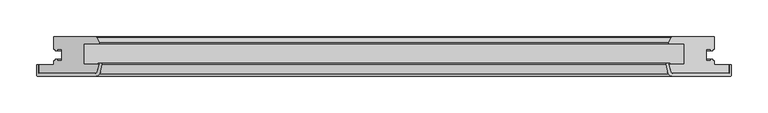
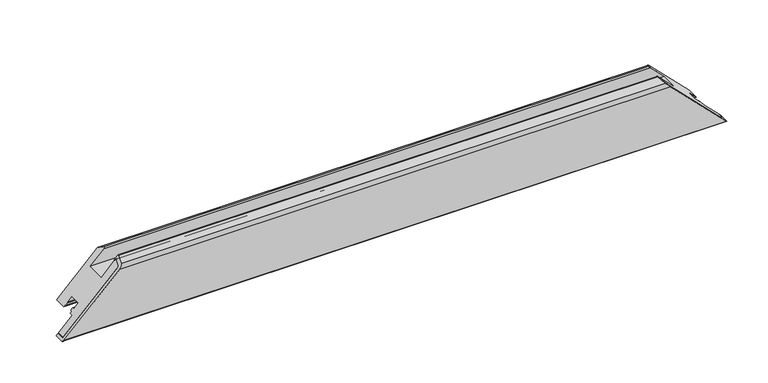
"""IFC4 building model written with IfcOpenShell, lengths in millimetres: proxy geometry, Weiku - Montante - Folha 02.2.01.018 : Weiku - Montante - Folha 02.2.01.018."""

from ifc_helpers import new_model, si_unit, frame, origin, place, context, project, spatial, polyline, ellipse_curve, source, transform, mapped, element, save
from ifc_brep_helpers import plane_surface, cylinder_surface, revolved_surface, advanced_brep


def generic_models_70f85dd0(model_context):
    return source(origin(), model_context, "Body", "AdvancedBrep", [
        advanced_brep(
        [(470.5, -50.0, 0.0), (-470.5, -50.0, 0.0), (-393.4997332, -50.0, 77.0002668), (393.4997332, -50.0, 77.0002668), (-390.6019557, -47.7764571, 79.8980443), (390.6019557, -47.7764571, 79.8980443), (-388.0170371, -38.1294095, 82.4829629), (388.0170371, -38.1294095, 82.4829629), (-388.5, -37.5, 82.0), (388.5, -37.5, 82.0), (-389.3560102, -37.5, 81.1439898), (389.3560102, -37.5, 81.1439898), (-389.3560102, -36.5, 81.1439898), (389.3560102, -36.5, 81.1439898), (-384.7425588, -36.5, 85.7574412), (384.7425588, -36.5, 85.7574412), (-383.7766329, -37.758819, 86.7233671), (383.7766329, -37.758819, 86.7233671), (-387.1354501, -50.2940952, 83.3645499), (387.1354501, -50.2940952, 83.3645499), (-391.9650792, -54.0, 78.5349208), (391.9650792, -54.0, 78.5349208), (-471.5, -54.0, -1.0), (471.5, -54.0, -1.0), (-473.5, -52.0, -3.0), (473.5, -52.0, -3.0), (-473.5, -38.5, -3.0), (473.5, -38.5, -3.0), (-470.5, -38.5, 0.0), (470.5, -38.5, 0.0)],
        [
            (0, 1),
            (1, 2),
            (2, 3),
            (3, 0),
            (2, 4, ellipse_curve(frame((-393.4997332, -47.0, 77.0002668), z_axis=(-0.7071067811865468, 0.0, 0.7071067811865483), x_axis=(0.7071067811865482, 0.0, 0.7071067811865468)), 4.2426407, 3.0)),
            (4, 5),
            (5, 3, ellipse_curve(frame((393.4997332, -47.0, 77.0002668), z_axis=(0.7071067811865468, 0.0, 0.7071067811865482), x_axis=(0.7071067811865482, 0.0, -0.7071067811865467)), 4.2426407, 3.0)),
            (4, 6),
            (6, 7),
            (7, 5),
            (6, 8, ellipse_curve(frame((-388.5, -38.0, 82.0), z_axis=(-0.7071067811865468, 0.0, 0.7071067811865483), x_axis=(0.7071067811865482, 0.0, 0.7071067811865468)), 0.7071068, 0.5)),
            (8, 9),
            (9, 7, ellipse_curve(frame((388.5, -38.0, 82.0), z_axis=(0.7071067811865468, 0.0, 0.7071067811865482), x_axis=(0.7071067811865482, 0.0, -0.7071067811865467)), 0.7071068, 0.5)),
            (8, 10),
            (10, 11),
            (11, 9),
            (10, 12, ellipse_curve(frame((-389.3560102, -37.0, 81.1439898), z_axis=(0.7071067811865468, 0.0, -0.7071067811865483), x_axis=(-0.7071067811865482, 0.0, -0.7071067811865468)), 0.7071068, 0.5)),
            (12, 13),
            (13, 11, ellipse_curve(frame((389.3560102, -37.0, 81.1439898), z_axis=(-0.7071067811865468, 0.0, -0.7071067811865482), x_axis=(-0.7071067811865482, 0.0, 0.7071067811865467)), 0.7071068, 0.5)),
            (12, 14),
            (14, 15),
            (15, 13),
            (14, 16, ellipse_curve(frame((-384.7425588, -37.5, 85.7574412), z_axis=(0.7071067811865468, 0.0, -0.7071067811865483), x_axis=(-0.7071067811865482, 0.0, -0.7071067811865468)), 1.4142136, 1.0)),
            (16, 17),
            (17, 15, ellipse_curve(frame((384.7425588, -37.5, 85.7574412), z_axis=(-0.7071067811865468, 0.0, -0.7071067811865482), x_axis=(-0.7071067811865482, 0.0, 0.7071067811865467)), 1.4142136, 1.0)),
            (16, 18),
            (18, 19),
            (19, 17),
            (18, 20, ellipse_curve(frame((-391.9650792, -49.0, 78.5349208), z_axis=(0.7071067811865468, 0.0, -0.7071067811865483), x_axis=(-0.7071067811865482, 0.0, -0.7071067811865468)), 7.0710678, 5.0)),
            (20, 21),
            (21, 19, ellipse_curve(frame((391.9650792, -49.0, 78.5349208), z_axis=(-0.7071067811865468, 0.0, -0.7071067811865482), x_axis=(-0.7071067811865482, 0.0, 0.7071067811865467)), 7.0710678, 5.0)),
            (20, 22),
            (22, 23),
            (23, 21),
            (22, 24, ellipse_curve(frame((-471.5, -52.0, -1.0), z_axis=(0.7071067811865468, 0.0, -0.7071067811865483), x_axis=(-0.7071067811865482, 0.0, -0.7071067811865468)), 2.8284271, 2.0)),
            (24, 25),
            (25, 23, ellipse_curve(frame((471.5, -52.0, -1.0), z_axis=(-0.7071067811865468, 0.0, -0.7071067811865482), x_axis=(-0.7071067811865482, 0.0, 0.7071067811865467)), 2.8284271, 2.0)),
            (24, 26),
            (26, 27),
            (27, 25),
            (26, 28),
            (28, 29),
            (29, 27),
            (28, 1),
            (0, 29),
        ],
        [
            plane_surface(frame((-490.5, -50.0, 0.0), z_axis=(0.0, 1.0, 0.0), x_axis=(1.0, 0.0, 0.0))),
            revolved_surface(polyline([(396.49973320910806, -50.0, 77.0002668), (-396.49973320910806, -50.0, 77.0002668)]), (-490.5, -47.0, 77.0002668), (1.0, 0.0, 0.0)),
            plane_surface(frame((-490.5, -47.7764571, 79.8980443), z_axis=(0.0, 0.2588190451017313, -0.9659258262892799), x_axis=(1.0, 0.0, 0.0))),
            revolved_surface(polyline([(389.00000001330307, -38.5, 82.0), (-389.0000000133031, -38.5, 82.0)]), (-490.5, -38.0, 82.0), (1.0, 0.0, 0.0)),
            plane_surface(frame((-490.5, -37.5, 82.0), z_axis=(0.0, -1.0, 0.0), x_axis=(1.0, 0.0, 0.0))),
            cylinder_surface(frame((-490.5, -37.0, 81.1439898), z_axis=(-1.0, 0.0, 0.0), x_axis=(0.0, -1.0, 0.0)), 0.5),
            plane_surface(frame((-490.5, -36.5, 81.1439898), z_axis=(0.0, 1.0, 0.0), x_axis=(1.0, 0.0, 0.0))),
            cylinder_surface(frame((-490.5, -37.5, 85.7574412), z_axis=(-1.0, 0.0, 0.0), x_axis=(0.0, -1.0, 0.0)), 1.0),
            plane_surface(frame((-490.5, -37.758819, 86.7233671), z_axis=(0.0, -0.25881904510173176, 0.9659258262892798), x_axis=(1.0, 0.0, 0.0))),
            cylinder_surface(frame((-490.5, -49.0, 78.5349208), z_axis=(-1.0, 0.0, 0.0), x_axis=(0.0, -1.0, 0.0)), 5.0),
            plane_surface(frame((-490.5, -54.0, 78.5349208), z_axis=(0.0, -1.0, 0.0), x_axis=(1.0, 0.0, 0.0))),
            cylinder_surface(frame((-490.5, -52.0, -1.0), z_axis=(-1.0, 0.0, 0.0), x_axis=(0.0, -1.0, 0.0)), 2.0),
            plane_surface(frame((-490.5, -52.0, -3.0), z_axis=(0.0, 0.0, -1.0), x_axis=(1.0, 0.0, 0.0))),
            plane_surface(frame((-490.5, -38.5, -3.0), z_axis=(0.0, 1.0, 0.0), x_axis=(1.0, 0.0, 0.0))),
            plane_surface(frame((-490.5, -38.5, 0.0), z_axis=(0.0, 0.0, 1.0), x_axis=(1.0, 0.0, 0.0))),
            plane_surface(frame((380.5, 0.0, 90.0), z_axis=(0.7071067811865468, 0.0, 0.7071067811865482), x_axis=(0.0, -1.0, 0.0))),
            plane_surface(frame((-498.7842712, 0.0, -28.2842712), z_axis=(-0.7071067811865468, 0.0, 0.7071067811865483), x_axis=(0.0, -1.0, 0.0))),
        ],
        [
            (0, [[1, 2, 3, 4]]),
            (1, [[-3, 5, 6, 7]]),
            (2, [[-6, 8, 9, 10]]),
            (3, [[-9, 11, 12, 13]]),
            (4, [[-12, 14, 15, 16]]),
            (5, [[-15, 17, 18, 19]]),
            (6, [[-18, 20, 21, 22]]),
            (7, [[-21, 23, 24, 25]]),
            (8, [[-24, 26, 27, 28]]),
            (9, [[-27, 29, 30, 31]]),
            (10, [[-30, 32, 33, 34]]),
            (11, [[-33, 35, 36, 37]]),
            (12, [[-36, 38, 39, 40]]),
            (13, [[-39, 41, 42, 43]]),
            (14, [[-42, 44, -1, 45]]),
            (15, [[-7, -10, -13, -16, -19, -22, -25, -28, -31, -34, -37, -40, -43, -45, -4]]),
            (16, [[-44, -41, -38, -35, -32, -29, -26, -23, -20, -17, -14, -11, -8, -5, -2]]),
        ],
    ),
        advanced_brep(
        [(470.5, -50.0, 0.0), (393.4997332, -50.0, 77.0002668), (-393.4997332, -50.0, 77.0002668), (-470.5, -50.0, 0.0), (-470.5, -38.5, 0.0), (470.5, -38.5, 0.0), (-392.4872264, 0.0, 78.0127736), (392.4872264, 0.0, 78.0127736), (450.5, 0.0, 20.0), (-450.5, 0.0, 20.0), (-390.6019557, -47.7764571, 79.8980443), (-388.0170371, -38.1294095, 82.4829629), (-388.5, -37.5, 82.0), (-409.0, -37.5, 61.5), (-409.0, -9.5, 61.5), (-389.2134285, -9.5, 81.2865715), (-388.0512796, -7.617411, 82.4487204), (-391.5932657, -0.5518546, 78.9067343), (-450.5, -16.9, 20.0), (-448.3, -16.9, 22.2), (-448.3, -18.9, 22.2), (-445.5, -18.9, 25.0), (-445.5, -16.9, 25.0), (-439.0, -16.9, 31.5), (-439.0, -33.1, 31.5), (-445.5, -33.1, 25.0), (-445.5, -31.1, 25.0), (-448.3, -31.1, 22.2), (-448.3, -33.1, 22.2), (-450.5, -33.1, 20.0), (-450.5, -38.5, 20.0), (450.5, -38.5, 20.0), (450.5, -33.1, 20.0), (448.3, -33.1, 22.2), (448.3, -31.1, 22.2), (445.5, -31.1, 25.0), (445.5, -33.1, 25.0), (439.0, -33.1, 31.5), (439.0, -16.9, 31.5), (445.5, -16.9, 25.0), (445.5, -18.9, 25.0), (448.3, -18.9, 22.2), (448.3, -16.9, 22.2), (450.5, -16.9, 20.0), (391.5932657, -0.5518546, 78.9067343), (388.0512796, -7.617411, 82.4487204), (389.2134285, -9.5, 81.2865715), (409.0, -9.5, 61.5), (409.0, -37.5, 61.5), (388.5, -37.5, 82.0), (388.0170371, -38.1294095, 82.4829629), (390.6019557, -47.7764571, 79.8980443)],
        [
            (0, 1),
            (1, 2),
            (2, 3),
            (3, 0),
            (3, 4),
            (4, 5),
            (5, 0),
            (6, 7),
            (7, 8),
            (8, 9),
            (9, 6),
            (2, 10, ellipse_curve(frame((-393.4997332, -47.0, 77.0002668), z_axis=(-0.7071067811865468, 0.0, 0.7071067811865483), x_axis=(-0.7071067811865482, 0.0, -0.7071067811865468)), 4.2426407, 3.0)),
            (10, 11),
            (11, 12, ellipse_curve(frame((-388.5, -38.0, 82.0), z_axis=(-0.7071067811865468, 0.0, 0.7071067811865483), x_axis=(-0.7071067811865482, 0.0, -0.7071067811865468)), 0.7071068, 0.5)),
            (12, 13),
            (13, 14),
            (14, 15),
            (15, 16, ellipse_curve(frame((-389.2134285, -8.2, 81.2865715), z_axis=(-0.7071067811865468, 0.0, 0.7071067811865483), x_axis=(-0.7071067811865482, 0.0, -0.7071067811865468)), 1.8384776, 1.3)),
            (16, 17),
            (17, 6, ellipse_curve(frame((-392.4872264, -1.0, 78.0127736), z_axis=(-0.7071067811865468, 0.0, 0.7071067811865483), x_axis=(-0.7071067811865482, 0.0, -0.7071067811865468)), 1.4142136, 1.0)),
            (9, 18),
            (18, 19),
            (19, 20),
            (20, 21),
            (21, 22),
            (22, 23),
            (23, 24),
            (24, 25),
            (25, 26),
            (26, 27),
            (27, 28),
            (28, 29),
            (29, 30),
            (30, 4),
            (5, 31),
            (31, 32),
            (32, 33),
            (33, 34),
            (34, 35),
            (35, 36),
            (36, 37),
            (37, 38),
            (38, 39),
            (39, 40),
            (40, 41),
            (41, 42),
            (42, 43),
            (43, 8),
            (7, 44, ellipse_curve(frame((392.4872264, -1.0, 78.0127736), z_axis=(0.7071067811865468, 0.0, 0.7071067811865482), x_axis=(-0.7071067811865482, 0.0, 0.7071067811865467)), 1.4142136, 1.0)),
            (44, 45),
            (45, 46, ellipse_curve(frame((389.2134285, -8.2, 81.2865715), z_axis=(0.7071067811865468, 0.0, 0.7071067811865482), x_axis=(-0.7071067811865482, 0.0, 0.7071067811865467)), 1.8384776, 1.3)),
            (46, 47),
            (47, 48),
            (48, 49),
            (49, 50, ellipse_curve(frame((388.5, -38.0, 82.0), z_axis=(0.7071067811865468, 0.0, 0.7071067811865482), x_axis=(-0.7071067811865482, 0.0, 0.7071067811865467)), 0.7071068, 0.5)),
            (50, 51),
            (51, 1, ellipse_curve(frame((393.4997332, -47.0, 77.0002668), z_axis=(0.7071067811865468, 0.0, 0.7071067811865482), x_axis=(-0.7071067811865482, 0.0, 0.7071067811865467)), 4.2426407, 3.0)),
            (17, 44),
            (16, 45),
            (15, 46),
            (14, 47),
            (13, 48),
            (12, 49),
            (11, 50),
            (10, 51),
            (30, 31),
            (29, 32),
            (28, 33),
            (27, 34),
            (26, 35),
            (25, 36),
            (24, 37),
            (23, 38),
            (22, 39),
            (21, 40),
            (20, 41),
            (19, 42),
            (18, 43),
        ],
        [
            plane_surface(frame((-470.5, -50.0, 77.0002668), z_axis=(0.0, -1.0, 0.0), x_axis=(1.0, 0.0, 0.0))),
            plane_surface(frame((-470.5, -50.0, 0.0), z_axis=(0.0, 0.0, -1.0), x_axis=(1.0, 0.0, 0.0))),
            plane_surface(frame((-470.5, 0.0, 20.0), z_axis=(0.0, 1.0, 0.0), x_axis=(1.0, 0.0, 0.0))),
            plane_surface(frame((-498.7842712, 0.0, -28.2842712), z_axis=(-0.7071067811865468, 0.0, 0.7071067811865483), x_axis=(0.0, -1.0, 0.0))),
            plane_surface(frame((380.5, 0.0, 90.0), z_axis=(0.7071067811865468, 0.0, 0.7071067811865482), x_axis=(0.0, -1.0, 0.0))),
            cylinder_surface(frame((-470.5, -1.0, 78.0127736), z_axis=(-1.0, 0.0, 0.0), x_axis=(0.0, -1.0, 0.0)), 1.0),
            plane_surface(frame((-470.5, -0.5518546, 78.9067343), z_axis=(0.0, 0.4481453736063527, 0.8939606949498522), x_axis=(1.0, 0.0, 0.0))),
            cylinder_surface(frame((-470.5, -8.2, 81.2865715), z_axis=(-1.0, 0.0, 0.0), x_axis=(0.0, -1.0, 0.0)), 1.3),
            plane_surface(frame((-470.5, -9.5, 81.2865715), z_axis=(0.0, -1.0, 0.0), x_axis=(1.0, 0.0, 0.0))),
            plane_surface(frame((-470.5, -9.5, 61.5), z_axis=(0.0, 0.0, 1.0), x_axis=(1.0, 0.0, 0.0))),
            plane_surface(frame((-470.5, -37.5, 61.5), z_axis=(0.0, 1.0, 0.0), x_axis=(1.0, 0.0, 0.0))),
            cylinder_surface(frame((-470.5, -38.0, 82.0), z_axis=(-1.0, 0.0, 0.0), x_axis=(0.0, -1.0, 0.0)), 0.5),
            plane_surface(frame((-470.5, -38.1294095, 82.4829629), z_axis=(0.0, -0.2588190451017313, 0.9659258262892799), x_axis=(1.0, 0.0, 0.0))),
            cylinder_surface(frame((-470.5, -47.0, 77.0002668), z_axis=(-1.0, 0.0, 0.0), x_axis=(0.0, -1.0, 0.0)), 3.0),
            plane_surface(frame((-470.5, -38.5, 0.0), z_axis=(0.0, 1.0, 0.0), x_axis=(1.0, 0.0, 0.0))),
            plane_surface(frame((-470.5, -38.5, 20.0), z_axis=(0.0, 0.0, -1.0), x_axis=(1.0, 0.0, 0.0))),
            plane_surface(frame((-470.5, -33.1, 20.0), z_axis=(0.0, 1.0, 0.0), x_axis=(1.0, 0.0, 0.0))),
            plane_surface(frame((-470.5, -33.1, 22.2), z_axis=(0.0, 0.0, -1.0), x_axis=(1.0, 0.0, 0.0))),
            plane_surface(frame((-470.5, -31.1, 22.2), z_axis=(0.0, 1.0, 0.0), x_axis=(1.0, 0.0, 0.0))),
            plane_surface(frame((-470.5, -31.1, 25.0), z_axis=(0.0, 0.0, 1.0), x_axis=(1.0, 0.0, 0.0))),
            plane_surface(frame((-470.5, -33.1, 25.0), z_axis=(0.0, 1.0, 0.0), x_axis=(1.0, 0.0, 0.0))),
            plane_surface(frame((-470.5, -33.1, 31.5), z_axis=(0.0, 0.0, -1.0), x_axis=(1.0, 0.0, 0.0))),
            plane_surface(frame((-470.5, -16.9, 31.5), z_axis=(0.0, -1.0, 0.0), x_axis=(1.0, 0.0, 0.0))),
            plane_surface(frame((-470.5, -16.9, 25.0), z_axis=(0.0, 0.0, 1.0), x_axis=(1.0, 0.0, 0.0))),
            plane_surface(frame((-470.5, -18.9, 25.0), z_axis=(0.0, -1.0, 0.0), x_axis=(1.0, 0.0, 0.0))),
            plane_surface(frame((-470.5, -18.9, 22.2), z_axis=(0.0, 0.0, -1.0), x_axis=(1.0, 0.0, 0.0))),
            plane_surface(frame((-470.5, -16.9, 22.2), z_axis=(0.0, -1.0, 0.0), x_axis=(1.0, 0.0, 0.0))),
            plane_surface(frame((-470.5, -16.9, 20.0), z_axis=(0.0, 0.0, -1.0), x_axis=(1.0, 0.0, 0.0))),
        ],
        [
            (0, [[1, 2, 3, 4]]),
            (1, [[5, 6, 7, -4]]),
            (2, [[8, 9, 10, 11]]),
            (3, [[12, 13, 14, 15, 16, 17, 18, 19, 20, -11, 21, 22, 23, 24, 25, 26, 27, 28, 29, 30, 31, 32, 33, 34, -5, -3]]),
            (4, [[-7, 35, 36, 37, 38, 39, 40, 41, 42, 43, 44, 45, 46, 47, 48, -9, 49, 50, 51, 52, 53, 54, 55, 56, 57, -1]]),
            (5, [[58, -49, -8, -20]]),
            (6, [[59, -50, -58, -19]]),
            (7, [[60, -51, -59, -18]]),
            (8, [[61, -52, -60, -17]]),
            (9, [[62, -53, -61, -16]]),
            (10, [[63, -54, -62, -15]]),
            (11, [[64, -55, -63, -14]]),
            (12, [[65, -56, -64, -13]]),
            (13, [[-2, -57, -65, -12]]),
            (14, [[-34, 66, -35, -6]]),
            (15, [[67, -36, -66, -33]]),
            (16, [[68, -37, -67, -32]]),
            (17, [[69, -38, -68, -31]]),
            (18, [[70, -39, -69, -30]]),
            (19, [[71, -40, -70, -29]]),
            (20, [[72, -41, -71, -28]]),
            (21, [[73, -42, -72, -27]]),
            (22, [[74, -43, -73, -26]]),
            (23, [[75, -44, -74, -25]]),
            (24, [[76, -45, -75, -24]]),
            (25, [[77, -46, -76, -23]]),
            (26, [[78, -47, -77, -22]]),
            (27, [[-10, -48, -78, -21]]),
        ],
    ),
    ])


if __name__ == "__main__":
    model = new_model("IFC4")
    model_context = context("Model", 3, world=origin())
    ifc_project = project(units=[si_unit("LENGTHUNIT", "METRE", prefix="MILLI")], contexts=[model_context])
    site = spatial("IfcSite", under=ifc_project)
    building = spatial("IfcBuilding", under=site)
    placement = place(None, origin())
    generic_models_shape = generic_models_70f85dd0(model_context)
    element("IfcBuildingElementProxy", 1, Name="Weiku - Montante - Folha 02.2.01.018 : Weiku - Montante - Folha 02.2.01.018", ObjectType="Weiku - Montante - Folha 02.2.01.018 : Weiku - Montante - Folha 02.2.01.018", at=placement, inside=building, context=model_context, shape_type="MappedRepresentation", body=[
        mapped(generic_models_shape, transform((0.0, 0.0, 0.0), x_axis=(1.0, 0.0, 0.0), y_axis=(0.0, 1.0, 0.0), z_axis=(0.0, 0.0, 1.0))),
    ])
    save(model, "model.ifc")
